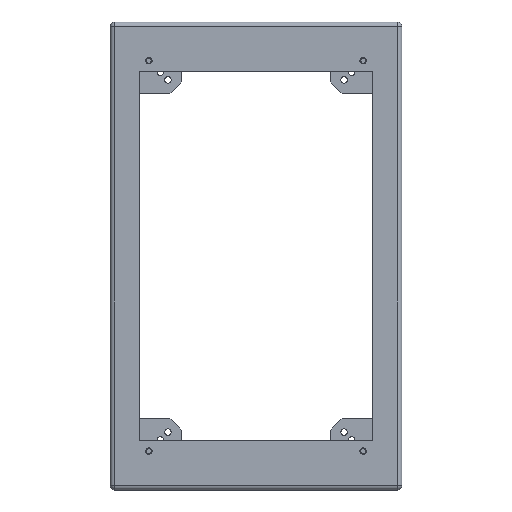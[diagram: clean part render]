
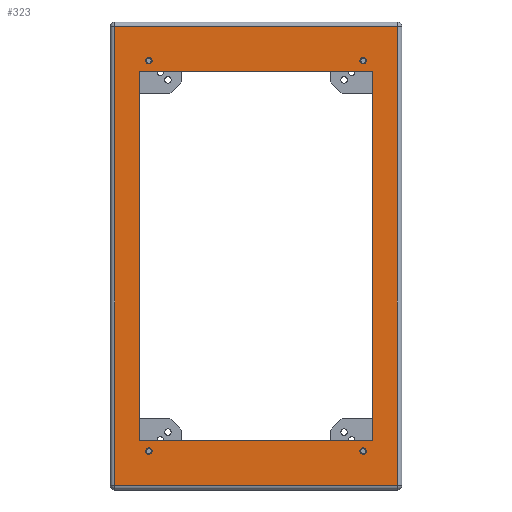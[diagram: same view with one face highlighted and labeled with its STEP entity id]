
A CAD part, top view. The second image highlights one B-rep face of the part: STEP entity #323.
In plain terms, the highlighted planar face has unit normal (0, 0, 1).
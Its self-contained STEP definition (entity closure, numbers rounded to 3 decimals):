
#323=ADVANCED_FACE('',(#1556,#1558,#1560,#1562,#1564,#1566),#1568,.T.);
#1556=FACE_BOUND('',#1557,.T.);
#1557=EDGE_LOOP('',(#2606,#2607,#2608,#2609));
#1558=FACE_BOUND('',#1559,.T.);
#1559=EDGE_LOOP('',(#2610));
#1560=FACE_BOUND('',#1561,.T.);
#1561=EDGE_LOOP('',(#2611));
#1562=FACE_BOUND('',#1563,.T.);
#1563=EDGE_LOOP('',(#2612));
#1564=FACE_BOUND('',#1565,.T.);
#1565=EDGE_LOOP('',(#2613));
#1566=FACE_BOUND('',#1567,.T.);
#1567=EDGE_LOOP('',(#2614,#2615,#2616,#2617));
#1568=PLANE('',#1569);
#1569=AXIS2_PLACEMENT_3D('',#1570,#1571,#1572);
#1570=CARTESIAN_POINT('',(0.,0.,100.));
#1571=DIRECTION('',(0.,0.,1.));
#1572=DIRECTION('',(0.,1.,0.));
#2606=ORIENTED_EDGE('',*,*,#3129,.T.);
#2607=ORIENTED_EDGE('',*,*,#3130,.T.);
#2608=ORIENTED_EDGE('',*,*,#3131,.T.);
#2609=ORIENTED_EDGE('',*,*,#3132,.T.);
#2610=ORIENTED_EDGE('',*,*,#3133,.T.);
#2611=ORIENTED_EDGE('',*,*,#3134,.T.);
#2612=ORIENTED_EDGE('',*,*,#3135,.T.);
#2613=ORIENTED_EDGE('',*,*,#3136,.T.);
#2614=ORIENTED_EDGE('',*,*,#3085,.T.);
#2615=ORIENTED_EDGE('',*,*,#3092,.T.);
#2616=ORIENTED_EDGE('',*,*,#3090,.T.);
#2617=ORIENTED_EDGE('',*,*,#3088,.T.);
#3085=EDGE_CURVE('',#3404,#3405,#3406,.F.);
#3088=EDGE_CURVE('',#3409,#3404,#3410,.F.);
#3090=EDGE_CURVE('',#3412,#3409,#3413,.F.);
#3092=EDGE_CURVE('',#3405,#3412,#3415,.F.);
#3129=EDGE_CURVE('',#3480,#3481,#3482,.T.);
#3130=EDGE_CURVE('',#3481,#3483,#3484,.T.);
#3131=EDGE_CURVE('',#3483,#3485,#3486,.T.);
#3132=EDGE_CURVE('',#3485,#3480,#3487,.T.);
#3133=EDGE_CURVE('',#3488,#3488,#3489,.F.);
#3134=EDGE_CURVE('',#3490,#3490,#3491,.F.);
#3135=EDGE_CURVE('',#3492,#3492,#3493,.F.);
#3136=EDGE_CURVE('',#3494,#3494,#3495,.F.);
#3404=VERTEX_POINT('',#4444);
#3405=VERTEX_POINT('',#4445);
#3406=LINE('',#4446,#4447);
#3409=VERTEX_POINT('',#4455);
#3410=LINE('',#4456,#4457);
#3412=VERTEX_POINT('',#4462);
#3413=LINE('',#4463,#4464);
#3415=LINE('',#4469,#4470);
#3480=VERTEX_POINT('',#5304);
#3481=VERTEX_POINT('',#5305);
#3482=LINE('',#5306,#5307);
#3483=VERTEX_POINT('',#5309);
#3484=LINE('',#5310,#5311);
#3485=VERTEX_POINT('',#5313);
#3486=LINE('',#5314,#5315);
#3487=LINE('',#5317,#5318);
#3488=VERTEX_POINT('',#5320);
#3489=CIRCLE('',#5321,5.5);
#3490=VERTEX_POINT('',#5325);
#3491=CIRCLE('',#5326,5.5);
#3492=VERTEX_POINT('',#5330);
#3493=CIRCLE('',#5331,5.5);
#3494=VERTEX_POINT('',#5335);
#3495=CIRCLE('',#5336,5.5);
#4444=CARTESIAN_POINT('',(-198.5,313.5,100.));
#4445=CARTESIAN_POINT('',(198.5,313.5,100.));
#4446=CARTESIAN_POINT('',(198.5,313.5,100.));
#4447=VECTOR('',#4448,1.);
#4448=DIRECTION('',(-1.,0.,0.));
#4455=CARTESIAN_POINT('',(-198.5,-313.5,100.));
#4456=CARTESIAN_POINT('',(-198.5,313.5,100.));
#4457=VECTOR('',#4458,1.);
#4458=DIRECTION('',(0.,-1.,0.));
#4462=CARTESIAN_POINT('',(198.5,-313.5,100.));
#4463=CARTESIAN_POINT('',(-198.5,-313.5,100.));
#4464=VECTOR('',#4465,1.);
#4465=DIRECTION('',(1.,0.,0.));
#4469=CARTESIAN_POINT('',(198.5,-313.5,100.));
#4470=VECTOR('',#4471,1.);
#4471=DIRECTION('',(0.,1.,0.));
#5304=CARTESIAN_POINT('',(-240.5,390.5,100.));
#5305=CARTESIAN_POINT('',(-240.5,-390.5,100.));
#5306=CARTESIAN_POINT('',(-240.5,390.5,100.));
#5307=VECTOR('',#5308,1.);
#5308=DIRECTION('',(0.,-1.,0.));
#5309=CARTESIAN_POINT('',(240.5,-390.5,100.));
#5310=CARTESIAN_POINT('',(-240.5,-390.5,100.));
#5311=VECTOR('',#5312,1.);
#5312=DIRECTION('',(1.,0.,0.));
#5313=CARTESIAN_POINT('',(240.5,390.5,100.));
#5314=CARTESIAN_POINT('',(240.5,-390.5,100.));
#5315=VECTOR('',#5316,1.);
#5316=DIRECTION('',(0.,1.,0.));
#5317=CARTESIAN_POINT('',(240.5,390.5,100.));
#5318=VECTOR('',#5319,1.);
#5319=DIRECTION('',(-1.,0.,0.));
#5320=CARTESIAN_POINT('',(182.5,338.,100.));
#5321=AXIS2_PLACEMENT_3D('',#5322,#5323,#5324);
#5322=CARTESIAN_POINT('',(182.5,332.5,100.));
#5323=DIRECTION('',(0.,0.,1.));
#5324=DIRECTION('',(0.,1.,0.));
#5325=CARTESIAN_POINT('',(182.5,-327.,100.));
#5326=AXIS2_PLACEMENT_3D('',#5327,#5328,#5329);
#5327=CARTESIAN_POINT('',(182.5,-332.5,100.));
#5328=DIRECTION('',(0.,0.,1.));
#5329=DIRECTION('',(0.,1.,0.));
#5330=CARTESIAN_POINT('',(-182.5,338.,100.));
#5331=AXIS2_PLACEMENT_3D('',#5332,#5333,#5334);
#5332=CARTESIAN_POINT('',(-182.5,332.5,100.));
#5333=DIRECTION('',(0.,0.,1.));
#5334=DIRECTION('',(0.,1.,0.));
#5335=CARTESIAN_POINT('',(-182.5,-327.,100.));
#5336=AXIS2_PLACEMENT_3D('',#5337,#5338,#5339);
#5337=CARTESIAN_POINT('',(-182.5,-332.5,100.));
#5338=DIRECTION('',(0.,0.,1.));
#5339=DIRECTION('',(0.,1.,0.));
